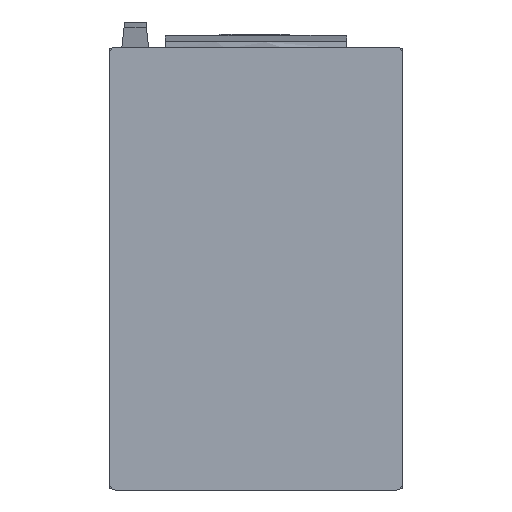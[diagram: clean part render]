
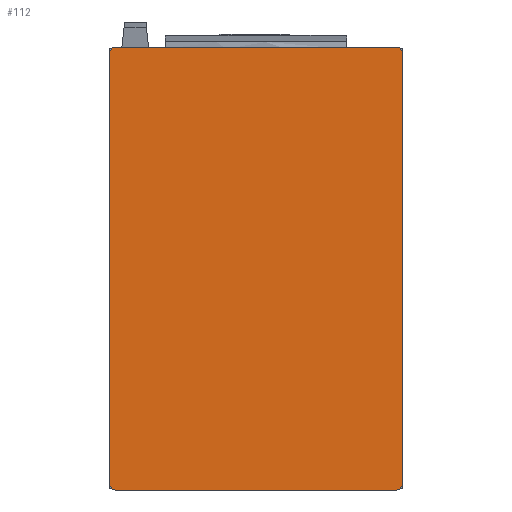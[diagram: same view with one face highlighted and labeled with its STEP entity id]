
A CAD part, front view. The second image highlights one B-rep face of the part: STEP entity #112.
In plain terms, the highlighted planar face has unit normal (0, -1, 0).
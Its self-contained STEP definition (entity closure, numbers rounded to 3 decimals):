
#112=ADVANCED_FACE('Corps de pi\X2\00E8\X0\ce.1',(#237),#238,.T.);
#237=FACE_OUTER_BOUND('',#505,.T.);
#238=PLANE('',#506);
#505=EDGE_LOOP('',(#983,#984,#985,#986,#987,#988,#989,#990));
#506=AXIS2_PLACEMENT_3D('',#991,#992,#993);
#983=ORIENTED_EDGE('',*,*,#1142,.T.);
#984=ORIENTED_EDGE('',*,*,#1140,.T.);
#985=ORIENTED_EDGE('',*,*,#1138,.T.);
#986=ORIENTED_EDGE('',*,*,#1136,.T.);
#987=ORIENTED_EDGE('',*,*,#1134,.T.);
#988=ORIENTED_EDGE('',*,*,#1132,.T.);
#989=ORIENTED_EDGE('',*,*,#1130,.T.);
#990=ORIENTED_EDGE('',*,*,#1143,.T.);
#991=CARTESIAN_POINT('',(-160.0,-100.0,-260.0));
#992=DIRECTION('',(0.0,-1.0,0.0));
#993=DIRECTION('',(0.0,0.0,-1.0));
#1130=EDGE_CURVE('',#1370,#1372,#1374,.T.);
#1132=EDGE_CURVE('',#1375,#1370,#1377,.F.);
#1134=EDGE_CURVE('',#1378,#1375,#1380,.T.);
#1136=EDGE_CURVE('',#1381,#1378,#1383,.F.);
#1138=EDGE_CURVE('',#1384,#1381,#1386,.T.);
#1140=EDGE_CURVE('',#1387,#1384,#1389,.F.);
#1142=EDGE_CURVE('',#1390,#1387,#1392,.T.);
#1143=EDGE_CURVE('',#1372,#1390,#1393,.F.);
#1370=VERTEX_POINT('',#1951);
#1372=VERTEX_POINT('',#1954);
#1374=LINE('',#1957,#1958);
#1375=VERTEX_POINT('',#1959);
#1377=CIRCLE('',#1962,8.6);
#1378=VERTEX_POINT('',#1963);
#1380=LINE('',#1966,#1967);
#1381=VERTEX_POINT('',#1968);
#1383=CIRCLE('',#1971,8.6);
#1384=VERTEX_POINT('',#1972);
#1386=LINE('',#1975,#1976);
#1387=VERTEX_POINT('',#1977);
#1389=CIRCLE('',#1980,8.6);
#1390=VERTEX_POINT('',#1981);
#1392=LINE('',#1984,#1985);
#1393=CIRCLE('',#1986,8.6);
#1951=CARTESIAN_POINT('',(191.4,-100.0,302.5));
#1954=CARTESIAN_POINT('',(-191.4,-100.0,302.5));
#1957=CARTESIAN_POINT('',(0.,-100.0,302.5));
#1958=VECTOR('',#2125,1.0);
#1959=CARTESIAN_POINT('',(200.0,-100.0,293.9));
#1962=AXIS2_PLACEMENT_3D('',#2127,#2128,#2129);
#1963=CARTESIAN_POINT('',(200.0,-100.0,-293.9));
#1966=CARTESIAN_POINT('',(200.0,-100.0,0.));
#1967=VECTOR('',#2131,1.0);
#1968=CARTESIAN_POINT('',(191.4,-100.0,-302.5));
#1971=AXIS2_PLACEMENT_3D('',#2133,#2134,#2135);
#1972=CARTESIAN_POINT('',(-191.4,-100.0,-302.5));
#1975=CARTESIAN_POINT('',(0.0,-100.0,-302.5));
#1976=VECTOR('',#2137,1.0);
#1977=CARTESIAN_POINT('',(-200.0,-100.0,-293.9));
#1980=AXIS2_PLACEMENT_3D('',#2139,#2140,#2141);
#1981=CARTESIAN_POINT('',(-200.0,-100.0,293.9));
#1984=CARTESIAN_POINT('',(-200.0,-100.0,0.));
#1985=VECTOR('',#2143,1.0);
#1986=AXIS2_PLACEMENT_3D('',#2144,#2145,#2146);
#2125=DIRECTION('',(-1.0,0.0,0.0));
#2127=CARTESIAN_POINT('',(191.4,-100.0,293.9));
#2128=DIRECTION('',(0.0,1.0,-0.0));
#2129=DIRECTION('',(1.0,0.0,0.0));
#2131=DIRECTION('',(0.0,0.0,1.0));
#2133=CARTESIAN_POINT('',(191.4,-100.0,-293.9));
#2134=DIRECTION('',(0.0,1.0,-0.0));
#2135=DIRECTION('',(1.0,0.0,0.0));
#2137=DIRECTION('',(1.0,0.0,0.0));
#2139=CARTESIAN_POINT('',(-191.4,-100.0,-293.9));
#2140=DIRECTION('',(0.0,1.0,-0.0));
#2141=DIRECTION('',(1.0,0.0,0.0));
#2143=DIRECTION('',(0.0,0.0,-1.0));
#2144=CARTESIAN_POINT('',(-191.4,-100.0,293.9));
#2145=DIRECTION('',(0.0,1.0,-0.0));
#2146=DIRECTION('',(1.0,0.0,0.0));
